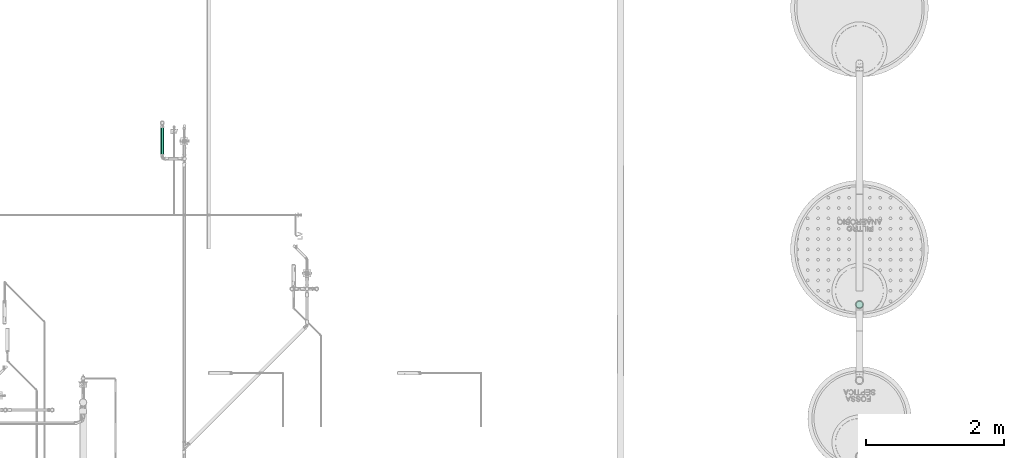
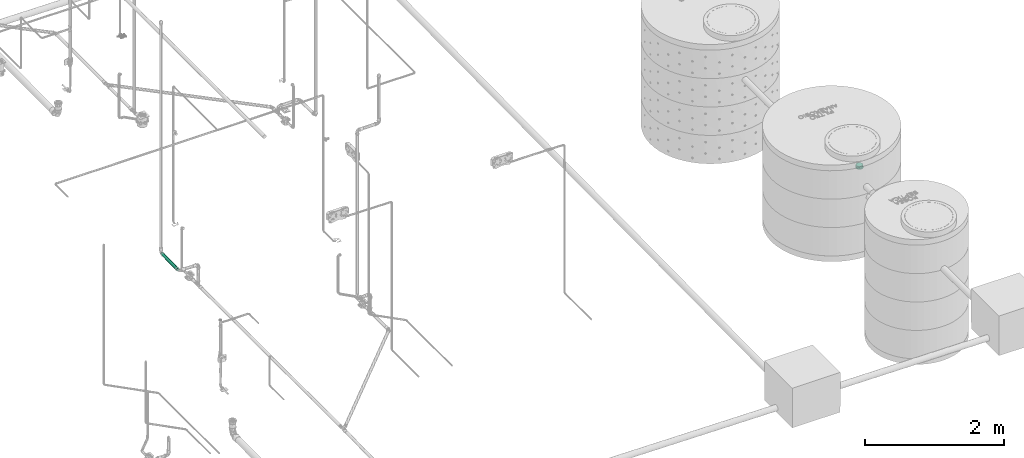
# One storey, part 180 of 589: 1 flow fitting, 1 flow segment.
"""IFC2X3 building model written with IfcOpenShell, lengths in millimetres."""

from ifc_helpers import new_model, entity, si_unit, converted_unit, derived_unit, direction, frame, frame_2d, origin, place, context, subcontext, project, spatial, circle, extrude, faceted_brep, source, transform, mapped, material, type_object, type_shapes, element, save


model = new_model("IFC2X3")

# Units and contexts
model_context = context("Model", 3, precision=0.01, world=origin(), true_north=direction((6.123031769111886e-17, 1.0)))
body_context = subcontext(model_context, "Body", "Model", "MODEL_VIEW")
ifc_project = project(units=[si_unit("LENGTHUNIT", "METRE", prefix="MILLI"), si_unit("AREAUNIT", "SQUARE_METRE"), si_unit("VOLUMEUNIT", "CUBIC_METRE"), converted_unit("PLANEANGLEUNIT", "DEGREE", entity("IfcRatioMeasure", 0.017453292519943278), si_unit("PLANEANGLEUNIT", "RADIAN"), dimensions=[0, 0, 0, 0, 0, 0, 0]), si_unit("MASSUNIT", "GRAM", prefix="KILO"), derived_unit("MASSDENSITYUNIT", [(si_unit("MASSUNIT", "GRAM", prefix="KILO"), 1), (si_unit("LENGTHUNIT", "METRE"), -3)]), derived_unit("IONCONCENTRATIONUNIT", [(si_unit("MASSUNIT", "GRAM", prefix="KILO"), 1), (si_unit("LENGTHUNIT", "METRE"), -3)]), derived_unit("MOMENTOFINERTIAUNIT", [(si_unit("LENGTHUNIT", "METRE"), 4)]), si_unit("TIMEUNIT", "SECOND"), si_unit("FREQUENCYUNIT", "HERTZ"), si_unit("THERMODYNAMICTEMPERATUREUNIT", "DEGREE_CELSIUS"), derived_unit("THERMALTRANSMITTANCEUNIT", [(si_unit("MASSUNIT", "GRAM", prefix="KILO"), 1), (si_unit("THERMODYNAMICTEMPERATUREUNIT", "KELVIN"), -1), (si_unit("TIMEUNIT", "SECOND"), -3)]), derived_unit("THERMALCONDUCTANCEUNIT", [(si_unit("MASSUNIT", "GRAM", prefix="KILO"), 1), (si_unit("THERMODYNAMICTEMPERATUREUNIT", "KELVIN"), -1), (si_unit("TIMEUNIT", "SECOND"), -3), (si_unit("LENGTHUNIT", "METRE"), 1)]), derived_unit("VOLUMETRICFLOWRATEUNIT", [(si_unit("LENGTHUNIT", "METRE"), 3), (si_unit("TIMEUNIT", "SECOND"), -1)]), derived_unit("MASSFLOWRATEUNIT", [(si_unit("MASSUNIT", "GRAM", prefix="KILO"), 1), (si_unit("TIMEUNIT", "SECOND"), -1)]), derived_unit("ROTATIONALFREQUENCYUNIT", [(si_unit("TIMEUNIT", "SECOND"), -1)]), si_unit("ELECTRICCURRENTUNIT", "AMPERE"), si_unit("ELECTRICVOLTAGEUNIT", "VOLT"), si_unit("POWERUNIT", "WATT"), si_unit("FORCEUNIT", "NEWTON", prefix="KILO"), si_unit("ILLUMINANCEUNIT", "LUX"), si_unit("LUMINOUSFLUXUNIT", "LUMEN"), si_unit("LUMINOUSINTENSITYUNIT", "CANDELA"), derived_unit("USERDEFINED", [(si_unit("MASSUNIT", "GRAM", prefix="KILO"), -1), (si_unit("LENGTHUNIT", "METRE"), -2), (si_unit("TIMEUNIT", "SECOND"), 3), (si_unit("LUMINOUSFLUXUNIT", "LUMEN"), 1)]), derived_unit("USERDEFINED", [(si_unit("MASSUNIT", "GRAM", prefix="KILO"), 1), (si_unit("TIMEUNIT", "SECOND"), -3), (si_unit("LENGTHUNIT", "METRE"), 3), (si_unit("ELECTRICCURRENTUNIT", "AMPERE"), -2)]), derived_unit("SOUNDPOWERUNIT", [(si_unit("MASSUNIT", "GRAM", prefix="KILO"), 1), (si_unit("TIMEUNIT", "SECOND"), -3), (si_unit("LENGTHUNIT", "METRE"), 2)]), derived_unit("SOUNDPRESSUREUNIT", [(si_unit("MASSUNIT", "GRAM", prefix="KILO"), 1), (si_unit("LENGTHUNIT", "METRE"), -1), (si_unit("TIMEUNIT", "SECOND"), -2)]), derived_unit("LINEARVELOCITYUNIT", [(si_unit("LENGTHUNIT", "METRE"), 1), (si_unit("TIMEUNIT", "SECOND"), -1)]), si_unit("PRESSUREUNIT", "PASCAL"), derived_unit("USERDEFINED", [(si_unit("MASSUNIT", "GRAM", prefix="KILO"), 1), (si_unit("LENGTHUNIT", "METRE"), -2), (si_unit("TIMEUNIT", "SECOND"), -2)]), derived_unit("LINEARFORCEUNIT", [(si_unit("MASSUNIT", "GRAM", prefix="KILO"), 1), (si_unit("TIMEUNIT", "SECOND"), -2)]), derived_unit("PLANARFORCEUNIT", [(si_unit("MASSUNIT", "GRAM", prefix="KILO"), 1), (si_unit("LENGTHUNIT", "METRE"), -1), (si_unit("TIMEUNIT", "SECOND"), -2)]), derived_unit("SPECIFICHEATCAPACITYUNIT", [(si_unit("THERMODYNAMICTEMPERATUREUNIT", "KELVIN"), -1), (si_unit("LENGTHUNIT", "METRE"), 2), (si_unit("TIMEUNIT", "SECOND"), -2)]), derived_unit("HEATINGVALUEUNIT", [(si_unit("LENGTHUNIT", "METRE"), 2), (si_unit("TIMEUNIT", "SECOND"), -2)]), derived_unit("VAPORPERMEABILITYUNIT", [(si_unit("LENGTHUNIT", "METRE"), -1), (si_unit("TIMEUNIT", "SECOND"), 1)]), derived_unit("DYNAMICVISCOSITYUNIT", [(si_unit("MASSUNIT", "GRAM", prefix="KILO"), 1), (si_unit("TIMEUNIT", "SECOND"), -1), (si_unit("LENGTHUNIT", "METRE"), -1)]), derived_unit("THERMALEXPANSIONCOEFFICIENTUNIT", [(si_unit("THERMODYNAMICTEMPERATUREUNIT", "KELVIN"), -1)]), derived_unit("MODULUSOFELASTICITYUNIT", [(si_unit("MASSUNIT", "GRAM", prefix="KILO"), 1), (si_unit("LENGTHUNIT", "METRE"), -1), (si_unit("TIMEUNIT", "SECOND"), -2)]), derived_unit("ISOTHERMALMOISTURECAPACITYUNIT", [(si_unit("LENGTHUNIT", "METRE"), 3), (si_unit("MASSUNIT", "GRAM", prefix="KILO"), -1)]), derived_unit("MOISTUREDIFFUSIVITYUNIT", [(si_unit("TIMEUNIT", "SECOND"), -1), (si_unit("LENGTHUNIT", "METRE"), 2)])], contexts=[model_context])

# Site, building, storey
site_placement = place(None, origin())
site = spatial("IfcSite", under=ifc_project, at=site_placement, Name="Default", CompositionType="ELEMENT")
building_placement = place(site_placement, origin())
building = spatial("IfcBuilding", under=site, at=building_placement, CompositionType="ELEMENT")
storey_placement = place(building_placement, frame((0.0, 0.0, 100.0)))
storey = spatial("IfcBuildingStorey", under=building, at=storey_placement, Name="TÉRREO", CompositionType="ELEMENT", Elevation=100.0)

# Flow segment
pipe_segment_type = type_object("IfcPipeSegmentType", Name="Tipos de tubos:PVC Esgoto Série Normal", PredefinedType="NOTDEFINED")
flow_segment_placement = place(storey_placement, origin())
element("IfcFlowSegment", 1, at=flow_segment_placement, inside=storey, type_object=pipe_segment_type, Name="Tipos de tubos:PVC Esgoto Série Normal", ObjectType="Tipos de tubos:PVC Esgoto Série Normal", context=body_context, shape_type="SweptSolid", body=[
    extrude(circle(Radius=25.0, at=frame_2d((0.0, -3.925197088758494e-14), x_axis=(1.0, 0.0))), frame((9946.454903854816, -4748.743201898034, 83.51195840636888), z_axis=(0.0, 0.9999500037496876, 0.009999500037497), x_axis=(1.0, 0.0, 0.0)), (0.0, 0.0, 1.0), 457.88729899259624),
])

# Flow fitting
ifc_material = material(Name="PVC Série Normal")
pipe_fitting_type = type_object("IfcPipeFittingType", Name="PVC Esgoto_Cap_Rodrigo MEP:a. Série Normal", PredefinedType="NOTDEFINED", material=ifc_material)
shared_shape = source(origin(), body_context, "Body", "Brep", [
    faceted_brep([(5.21, 25.0, -43.30127018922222), (5.21, 37.65343609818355, -37.65343609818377), (5.21, 26.624999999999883, -46.11585275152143), (5.21, 12.940952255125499, -48.29629131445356), (5.21, 35.355339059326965, -35.3553390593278), (5.21, 46.115852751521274, -26.62500000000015), (5.21, 43.30127018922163, -25.0), (5.21, 48.296291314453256, -12.940952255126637), (5.21, 51.435550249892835, -13.782114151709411), (5.21, 50.0, 0.0), (5.21, 53.25, 0.0), (5.21, 48.29629131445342, 12.94095225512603), (5.21, 51.435550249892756, 13.78211415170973), (5.21, 43.301270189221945, 25.0), (5.21, 46.11585275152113, 26.62500000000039), (5.21, 35.35533905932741, 35.355339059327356), (5.21, 37.65343609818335, 37.65343609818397), (5.21, 25.0, 43.30127018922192), (5.21, 26.624999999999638, 46.11585275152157), (5.21, 12.940952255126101, 48.2962913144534), (5.21, 13.78211415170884, 51.43555024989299), (5.21, 0.0, 50.0), (5.21, 0.0, 53.25), (5.21, -12.940952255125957, 48.29629131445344), (5.21, -13.782114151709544, 51.435550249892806), (5.21, -25.0, 43.30127018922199), (5.21, -26.625000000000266, 46.1158527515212), (5.21, -35.35533905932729, 35.35533905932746), (5.21, -37.653436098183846, 37.65343609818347), (5.21, -43.301270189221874, 25.0), (5.21, -46.11585275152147, 26.6249999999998), (5.21, -51.43555024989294, 13.782114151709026), (5.21, -48.29629131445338, 12.940952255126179), (5.21, -53.25, 0.0), (5.21, -50.0, 0.0), (5.21, -51.435550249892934, -13.782114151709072), (5.21, -48.29629131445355, -12.940952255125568), (5.21, -46.11585275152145, -26.624999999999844), (5.21, -43.3012701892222, -25.0), (5.21, -37.65343609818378, -37.65343609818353), (5.21, -35.35533905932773, -35.35533905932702), (5.21, -26.625000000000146, -46.115852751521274), (5.21, -25.0, -43.301270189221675), (5.21, -13.782114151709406, -51.435550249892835), (5.21, -12.940952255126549, -48.296291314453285), (5.21, 0.0, -53.25), (5.21, 0.0, -50.0), (5.21, 13.78211415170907, -51.435550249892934), (17.53, 28.875000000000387, -50.012967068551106), (17.53, 40.83541661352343, -40.83541661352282), (17.53, 25.0, -43.30127018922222), (17.53, 12.940952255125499, -48.29629131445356), (17.53, 14.946799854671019, -55.782216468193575), (17.53, 35.355339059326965, -35.3553390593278), (17.53, 50.01296706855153, -28.87499999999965), (17.53, 43.30127018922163, -25.0), (17.53, 48.296291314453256, -12.940952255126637), (17.53, 55.782216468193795, -14.946799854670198), (17.53, 50.0, 0.0), (17.53, 57.75, 0.0), (17.53, 48.29629131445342, 12.94095225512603), (17.53, 55.782216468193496, 14.946799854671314), (17.53, 43.301270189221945, 25.0), (17.53, 50.01296706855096, 28.875000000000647), (17.53, 35.35533905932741, 35.355339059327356), (17.53, 40.83541661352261, 40.83541661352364), (17.53, 25.0, 43.30127018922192), (17.53, 28.874999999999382, 50.012967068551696), (17.53, 12.940952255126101, 48.2962913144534), (17.53, 14.946799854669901, 55.78221646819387), (17.53, 0.0, 50.0), (17.53, 0.0, 57.75), (17.53, -12.940952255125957, 48.29629131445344), (17.53, -14.94679985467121, 55.78221646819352), (17.53, -25.0, 43.30127018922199), (17.53, -28.8750000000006, 50.012967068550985), (17.53, -35.35533905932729, 35.35533905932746), (17.53, -40.83541661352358, 40.83541661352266), (17.53, -43.301270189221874, 25.0), (17.53, -50.01296706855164, 28.874999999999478), (17.53, -55.78221646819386, 14.946799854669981), (17.53, -48.29629131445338, 12.940952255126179), (17.53, -57.75, 0.0), (17.53, -50.0, 0.0), (17.53, -55.78221646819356, -14.946799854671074), (17.53, -48.29629131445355, -12.940952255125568), (17.53, -50.012967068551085, -28.875000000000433), (17.53, -43.3012701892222, -25.0), (17.53, -40.83541661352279, -40.83541661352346), (17.53, -35.35533905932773, -35.35533905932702), (17.53, -28.8749999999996, -50.01296706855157), (17.53, -25.0, -43.301270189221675), (17.53, -14.946799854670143, -55.782216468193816), (17.53, -12.940952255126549, -48.296291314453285), (17.53, 0.0, -57.75), (17.53, 0.0, -50.0), (6.5125, 57.75, 0.0), (6.5125, 55.78221646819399, -14.946799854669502), (6.512499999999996, 50.01296706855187, -28.874999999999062), (6.5125, 40.8354166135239, -40.83541661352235), (6.5125, 28.87500000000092, -50.01296706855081), (6.5125, 14.946799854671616, -55.78221646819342), (6.5125, 0.0, -57.75), (6.512500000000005, -14.94679985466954, -55.78221646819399), (6.512500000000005, -28.87499999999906, -50.01296706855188), (6.512500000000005, -40.835416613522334, -40.83541661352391), (6.512500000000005, -50.01296706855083, -28.875000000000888), (6.5125, -55.782216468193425, -14.94679985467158), (6.5125, -57.75, 0.0), (6.512500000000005, -55.78221646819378, 14.946799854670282), (6.512499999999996, -50.01296706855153, 28.87499999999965), (6.512499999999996, -40.83541661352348, 40.835416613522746), (6.5125, -28.87500000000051, 50.012967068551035), (6.512499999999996, -14.94679985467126, 55.7822164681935), (6.5125, 0.0, 57.75), (6.5125, 14.946799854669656, 55.782216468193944), (6.512500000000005, 28.874999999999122, 50.01296706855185), (6.512500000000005, 40.835416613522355, 40.835416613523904), (6.512499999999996, 50.012967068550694, 28.875000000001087), (6.5125, 55.78221646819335, 14.946799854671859)], [[[0, 1, 2]], [[3, 0, 2]], [[4, 1, 0]], [[1, 4, 5]], [[6, 5, 4]], [[7, 5, 6]], [[5, 7, 8]], [[7, 9, 8]], [[10, 8, 9]], [[10, 9, 11]], [[11, 12, 10]], [[13, 12, 11]], [[12, 13, 14]], [[15, 14, 13]], [[16, 14, 15]], [[16, 15, 17]], [[17, 18, 16]], [[19, 18, 17]], [[18, 19, 20]], [[21, 20, 19]], [[22, 20, 21]], [[23, 22, 21]], [[24, 22, 23]], [[25, 24, 23]], [[24, 25, 26]], [[26, 25, 27]], [[28, 26, 27]], [[27, 29, 28]], [[28, 29, 30]], [[31, 30, 29]], [[29, 32, 31]], [[31, 32, 33]], [[32, 34, 33]], [[33, 34, 35]], [[34, 36, 35]], [[37, 35, 36]], [[36, 38, 37]], [[39, 37, 38]], [[40, 39, 38]], [[40, 41, 39]], [[41, 40, 42]], [[43, 41, 42]], [[42, 44, 43]], [[43, 44, 45]], [[44, 46, 45]], [[46, 3, 47]], [[45, 46, 47]], [[2, 47, 3]], [[48, 49, 50]], [[48, 50, 51]], [[51, 52, 48]], [[50, 49, 53]], [[54, 53, 49]], [[55, 53, 54]], [[56, 55, 54]], [[56, 54, 57]], [[56, 57, 58]], [[58, 57, 59]], [[60, 58, 59]], [[60, 59, 61]], [[62, 60, 61]], [[62, 61, 63]], [[64, 62, 63]], [[63, 65, 64]], [[65, 66, 64]], [[65, 67, 66]], [[66, 67, 68]], [[69, 68, 67]], [[68, 69, 70]], [[70, 69, 71]], [[70, 71, 72]], [[72, 71, 73]], [[72, 73, 74]], [[75, 74, 73]], [[75, 76, 74]], [[76, 75, 77]], [[78, 76, 77]], [[79, 78, 77]], [[80, 78, 79]], [[81, 78, 80]], [[81, 80, 82]], [[83, 81, 82]], [[84, 83, 82]], [[84, 85, 83]], [[85, 84, 86]], [[87, 85, 86]], [[87, 86, 88]], [[87, 88, 89]], [[88, 90, 89]], [[89, 90, 91]], [[91, 90, 92]], [[92, 93, 91]], [[94, 93, 92]], [[52, 95, 94]], [[94, 95, 93]], [[52, 51, 95]], [[10, 96, 97, 8]], [[8, 97, 98, 5]], [[2, 1, 99, 100]], [[98, 99, 1, 5]], [[47, 2, 100, 101]], [[102, 45, 47, 101]], [[43, 103, 104, 41]], [[41, 104, 105, 39]], [[35, 37, 106, 107]], [[105, 106, 37, 39]], [[33, 35, 107, 108]], [[43, 45, 102, 103]], [[33, 108, 109, 31]], [[31, 109, 110, 30]], [[26, 28, 111, 112]], [[110, 111, 28, 30]], [[24, 26, 112, 113]], [[114, 22, 24, 113]], [[20, 115, 116, 18]], [[18, 116, 117, 16]], [[12, 14, 118, 119]], [[117, 118, 14, 16]], [[10, 12, 119, 96]], [[20, 22, 114, 115]], [[57, 97, 96, 59]], [[54, 98, 97, 57]], [[99, 49, 48, 100]], [[54, 49, 99, 98]], [[100, 48, 52, 101]], [[101, 52, 94, 102]], [[90, 104, 103, 92]], [[88, 105, 104, 90]], [[106, 86, 84, 107]], [[88, 86, 106, 105]], [[107, 84, 82, 108]], [[103, 102, 94, 92]], [[80, 109, 108, 82]], [[79, 110, 109, 80]], [[111, 77, 75, 112]], [[79, 77, 111, 110]], [[112, 75, 73, 113]], [[113, 73, 71, 114]], [[67, 116, 115, 69]], [[65, 117, 116, 67]], [[118, 63, 61, 119]], [[65, 63, 118, 117]], [[119, 61, 59, 96]], [[115, 114, 71, 69]], [[34, 83, 85, 36]], [[36, 85, 87, 38]], [[42, 40, 89, 91]], [[89, 40, 38, 87]], [[44, 42, 91, 93]], [[44, 93, 95, 46]], [[46, 95, 51, 3]], [[3, 51, 50, 0]], [[6, 4, 53, 55]], [[53, 4, 0, 50]], [[7, 6, 55, 56]], [[7, 56, 58, 9]], [[9, 58, 60, 11]], [[11, 60, 62, 13]], [[17, 15, 64, 66]], [[64, 15, 13, 62]], [[19, 17, 66, 68]], [[19, 68, 70, 21]], [[21, 70, 72, 23]], [[23, 72, 74, 25]], [[29, 27, 76, 78]], [[76, 27, 25, 74]], [[32, 29, 78, 81]], [[32, 81, 83, 34]]]),
    faceted_brep([(53.24999999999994, 0.0, 0.0), (53.24999999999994, -45.048443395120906, -21.69418695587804), (53.24999999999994, -38.111466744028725, -30.39288053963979), (53.24999999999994, -31.17449009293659, -39.09157412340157), (53.24999999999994, -21.1502683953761, -43.91898486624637), (53.24999999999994, -11.126046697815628, -48.746395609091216), (53.24999999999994, 0.0, -48.746395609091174), (53.24999999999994, -47.524221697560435, -10.847093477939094), (53.24999999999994, -50.0, 0.0), (53.24999999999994, 11.126046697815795, -48.746395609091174), (53.24999999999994, 21.150268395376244, -43.9189848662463), (53.24999999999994, 31.174490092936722, -39.09157412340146), (53.24999999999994, 38.11146674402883, -30.392880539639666), (53.24999999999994, 45.04844339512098, -21.694186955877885), (53.24999999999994, 47.52422169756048, -10.847093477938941), (53.24999999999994, 50.0, 0.0), (53.24999999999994, 47.52422169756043, 10.847093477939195), (53.24999999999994, -47.5242216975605, 10.84709347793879), (53.24999999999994, -45.04844339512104, 21.694186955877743), (53.24999999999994, -38.111466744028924, 30.392880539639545), (53.24999999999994, -31.174490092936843, 39.091574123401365), (53.24999999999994, -21.150268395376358, 43.91898486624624), (53.24999999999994, -11.126046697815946, 48.74639560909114), (53.24999999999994, 45.04844339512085, 21.694186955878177), (53.24999999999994, 38.1114667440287, 30.392880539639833), (53.24999999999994, 31.174490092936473, 39.09157412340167), (53.24999999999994, 21.150268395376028, 43.9189848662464), (53.24999999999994, 11.126046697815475, 48.746395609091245), (53.24999999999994, 0.0, 48.74639560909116), (50.0, -50.0, 0.0), (50.0, 0.0, 0.0), (50.0, -48.2962913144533, -12.940952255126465), (50.0, -48.29629131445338, 12.940952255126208), (50.0, -43.30127018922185, 25.0), (50.0, -35.35533905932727, 35.355339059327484), (50.0, -25.0, 43.301270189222), (50.0, -12.94095225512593, 48.29629131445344), (50.0, 0.0, 50.0), (50.0, 12.940952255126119, 48.29629131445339), (50.0, 25.0, 43.301270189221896), (50.0, 35.35533905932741, 35.35533905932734), (50.0, 43.30127018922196, 25.0), (50.0, 48.29629131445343, 12.94095225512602), (50.0, 50.0, 0.0), (50.0, 48.29629131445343, -12.940952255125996), (50.0, 43.301270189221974, -25.0), (50.0, 35.35533905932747, -35.355339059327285), (50.0, 25.0, -43.30127018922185), (50.0, 12.94095225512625, -48.296291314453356), (50.0, 0.0, -50.0), (50.0, -12.940952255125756, -48.2962913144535), (50.0, -25.0, -43.301270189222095), (50.0, -35.355339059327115, -35.35533905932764), (50.0, -43.30127018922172, -25.0), (53.00458680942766, 48.81487662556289, -15.573573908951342), (52.63393157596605, 51.09920137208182, -9.10430348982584), (52.858005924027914, 44.586781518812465, -25.867905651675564), (51.62732470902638, 42.169557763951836, -31.795701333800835), (52.29182462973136, 48.73853311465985, -18.981587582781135), (52.855548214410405, 29.183345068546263, -42.49622488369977), (52.883936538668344, 38.04021623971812, -34.713603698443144), (50.0, 46.11585275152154, -26.62499999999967), (51.76459863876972, 6.955689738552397, -52.26844157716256), (52.85724259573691, -5.592315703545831, -51.244520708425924), (51.6273247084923, -6.956672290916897, -52.35306042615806), (51.54479934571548, 51.820871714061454, -10.426507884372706), (50.0, 0.0, -53.24999999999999), (50.0, 13.782114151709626, -51.43555024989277), (50.0, 37.653436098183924, -37.65343609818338), (50.0, 53.24999999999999, 0.0), (50.819679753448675, 52.9104775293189, 0.0), (52.298097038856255, 52.29809703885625, 0.0), (50.0, 51.43555024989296, -13.782114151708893), (51.76459863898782, 32.391409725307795, -41.60730922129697), (51.115246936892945, 20.39612755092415, -48.975326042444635), (50.0, 26.625000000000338, -46.11585275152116), (52.35926530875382, 20.354846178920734, -48.106155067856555), (51.6273247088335, -42.169557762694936, -31.79570133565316), (50.0, -37.653436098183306, -37.65343609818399), (51.7645986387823, -32.39140972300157, -41.60730922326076), (52.3592653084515, -20.354846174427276, -48.106155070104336), (52.85554821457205, -29.183345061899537, -42.49622488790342), (50.0, -13.782114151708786, -51.435550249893), (52.835996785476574, 10.495005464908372, -50.508490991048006), (50.0, -26.6249999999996, -46.11585275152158), (51.115246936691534, -20.396127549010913, -48.97532604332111), (52.298097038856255, -52.29809703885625, 0.0), (52.38411664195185, -51.331745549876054, -9.529080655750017), (52.58172941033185, -51.613347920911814, 0.0), (52.88393653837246, -38.0402162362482, -34.7136037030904), (52.94430490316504, -45.8256647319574, -23.22733347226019), (50.819679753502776, -52.91047752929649, 0.0), (50.0, -46.1158527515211, -26.625000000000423), (52.29182462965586, -48.738533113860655, -18.98158758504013), (51.3494443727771, -50.935684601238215, -14.489920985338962), (52.97645390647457, -49.43475697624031, -13.726455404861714), (52.5817294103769, 51.613347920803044, 0.0), (50.0, -51.43555024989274, -13.782114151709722), (50.0, -53.24999999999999, 0.0), (53.00458680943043, -48.81487662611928, 15.573573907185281), (52.633931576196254, -51.099201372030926, 9.104303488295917), (52.85800592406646, -44.5867815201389, 25.867905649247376), (51.62732470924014, -42.16955776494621, 31.79570133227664), (52.29182462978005, -48.73853311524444, 18.981587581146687), (52.855548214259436, -29.183345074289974, 42.49622488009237), (52.88393653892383, -38.04021624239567, 34.713603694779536), (50.0, -46.115852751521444, 26.62499999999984), (51.764598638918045, -6.955689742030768, 52.268441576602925), (52.85724259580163, 5.592315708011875, 51.24452070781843), (51.62732470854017, 6.956672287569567, 52.353060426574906), (51.54479934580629, -51.82087171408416, 10.426507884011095), (50.0, 0.0, 53.24999999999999), (50.0, -13.782114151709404, 51.43555024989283), (50.0, -37.65343609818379, 37.65343609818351), (50.0, -51.43555024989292, 13.78211415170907), (52.35926530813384, 20.35484616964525, 48.10615507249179), (51.62732470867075, 42.1695577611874, 31.795701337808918), (50.0, 37.653436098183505, 37.65343609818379), (51.76459863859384, 32.39140972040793, 41.607309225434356), (52.35926530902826, -20.354846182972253, 48.10615506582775), (51.11524693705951, -20.396127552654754, 48.97532604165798), (51.76459863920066, -32.39140972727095, 41.60730921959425), (50.0, -26.625000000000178, 46.115852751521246), (52.83599678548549, -10.495005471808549, 50.50849098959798), (50.0, 26.624999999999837, 46.115852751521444), (50.0, 13.782114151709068, 51.43555024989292), (51.115246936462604, 20.39612754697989, 48.97532604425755), (52.38411664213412, 51.33174554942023, 9.529080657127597), (52.88393653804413, 38.0402162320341, 34.71360370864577), (52.94430490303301, 45.825664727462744, 23.227333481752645), (52.97645390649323, 49.43475697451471, 13.72645541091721), (50.0, 46.11585275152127, 26.625000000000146), (52.29182462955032, 48.73853311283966, 18.981587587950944), (51.34944437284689, 50.93568460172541, 14.489920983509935), (52.855548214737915, 29.183345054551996, 42.496224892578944), (50.0, 51.43555024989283, 13.782114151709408), (0.0, -26.625000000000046, -46.11585275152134), (0.0, -37.65343609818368, -37.65343609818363), (0.0, -25.0, -43.30127018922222), (0.0, -12.940952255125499, -48.29629131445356), (0.0, -13.7821141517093, -51.43555024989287), (0.0, -35.355339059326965, -35.3553390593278), (0.0, -46.11585275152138, -26.62499999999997), (0.0, -43.30127018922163, -25.0), (0.0, -48.296291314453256, -12.940952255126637), (0.0, -51.43555024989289, -13.78211415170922), (0.0, -50.0, 0.0), (0.0, -53.25, 0.0), (0.0, -48.29629131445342, 12.94095225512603), (0.0, -51.43555024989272, 13.782114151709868), (0.0, -43.301270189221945, 25.0), (0.0, -46.11585275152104, 26.625000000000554), (0.0, -35.3553390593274, 35.355339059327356), (0.0, -37.653436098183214, 37.6534360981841), (0.0, -25.0, 43.30127018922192), (0.0, -26.62499999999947, 46.115852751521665), (0.0, -12.940952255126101, 48.2962913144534), (0.0, -13.782114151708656, 51.43555024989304), (0.0, 0.0, 50.0), (0.0, 0.0, 53.25), (0.0, 12.940952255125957, 48.29629131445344), (0.0, 13.782114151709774, 51.435550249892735), (0.0, 25.0, 43.30127018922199), (0.0, 26.625000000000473, 46.11585275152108), (0.0, 35.35533905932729, 35.35533905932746), (0.0, 37.65343609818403, 37.65343609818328), (0.0, 43.301270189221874, 25.0), (0.0, 46.11585275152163, 26.624999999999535), (0.0, 51.43555024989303, 13.782114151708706), (0.0, 48.29629131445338, 12.940952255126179), (0.0, 53.25, 0.0), (0.0, 50.0, 0.0), (0.0, 51.43555024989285, -13.782114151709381), (0.0, 48.29629131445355, -12.940952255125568), (0.0, 46.115852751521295, -26.625000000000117), (0.0, 43.3012701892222, -25.0), (0.0, 37.65343609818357, -37.65343609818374), (0.0, 35.35533905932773, -35.35533905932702), (0.0, 26.624999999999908, -46.11585275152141), (0.0, 25.0, -43.301270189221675), (0.0, 13.782114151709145, -51.43555024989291), (0.0, 12.940952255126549, -48.296291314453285), (0.0, 0.0, -53.25), (0.0, 0.0, -50.0), (5.210000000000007, 53.25, 0.0), (5.209999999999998, -53.25, 0.0)], [[[0, 1, 2]], [[0, 2, 3]], [[0, 3, 4]], [[0, 4, 5]], [[0, 5, 6]], [[0, 7, 1]], [[0, 8, 7]], [[0, 6, 9]], [[0, 9, 10]], [[0, 10, 11]], [[0, 11, 12]], [[0, 12, 13]], [[0, 13, 14]], [[0, 14, 15]], [[0, 15, 16]], [[0, 17, 8]], [[0, 18, 17]], [[0, 19, 18]], [[0, 20, 19]], [[0, 21, 20]], [[0, 22, 21]], [[0, 16, 23]], [[0, 23, 24]], [[0, 24, 25]], [[0, 25, 26]], [[0, 26, 27]], [[0, 27, 28]], [[0, 28, 22]], [[29, 30, 31]], [[29, 32, 30]], [[32, 33, 30]], [[33, 34, 30]], [[35, 30, 34]], [[30, 35, 36]], [[36, 37, 30]], [[38, 30, 37]], [[30, 38, 39]], [[30, 39, 40]], [[41, 30, 40]], [[30, 41, 42]], [[42, 43, 30]], [[30, 43, 44]], [[30, 44, 45]], [[46, 30, 45]], [[47, 30, 46]], [[48, 30, 47]], [[30, 48, 49]], [[30, 49, 50]], [[30, 50, 51]], [[52, 30, 51]], [[53, 30, 52]], [[31, 30, 53]], [[14, 54, 55]], [[56, 57, 58]], [[59, 60, 11]], [[61, 58, 57]], [[62, 63, 64]], [[55, 58, 65]], [[54, 56, 58]], [[66, 67, 62]], [[68, 61, 57]], [[65, 69, 70, 71]], [[61, 72, 58]], [[73, 74, 75]], [[65, 58, 72]], [[76, 74, 73]], [[75, 74, 67]], [[77, 78, 79]], [[68, 57, 73]], [[80, 4, 81]], [[74, 62, 67]], [[56, 12, 60]], [[82, 66, 64]], [[83, 63, 62]], [[83, 62, 76]], [[84, 82, 85]], [[86, 87, 88]], [[6, 63, 83]], [[89, 77, 79]], [[90, 77, 89]], [[85, 64, 80]], [[87, 86, 91]], [[84, 79, 78]], [[64, 66, 62]], [[79, 84, 85]], [[73, 57, 60]], [[80, 64, 63]], [[92, 93, 94]], [[87, 94, 93]], [[88, 87, 95]], [[77, 92, 78]], [[59, 10, 76]], [[3, 89, 81]], [[73, 75, 68]], [[5, 63, 6]], [[73, 60, 59]], [[81, 79, 80]], [[93, 92, 77]], [[90, 2, 1]], [[90, 1, 95]], [[9, 83, 10]], [[73, 59, 76]], [[59, 11, 10]], [[79, 81, 89]], [[63, 5, 80]], [[4, 80, 5]], [[4, 3, 81]], [[62, 74, 76]], [[64, 85, 82]], [[79, 85, 80]], [[69, 65, 72]], [[55, 65, 71]], [[55, 71, 96, 15]], [[55, 15, 14]], [[55, 54, 58]], [[14, 13, 54]], [[89, 3, 2]], [[13, 56, 54]], [[57, 56, 60]], [[1, 7, 8, 95]], [[91, 97, 94]], [[8, 88, 95]], [[95, 87, 93]], [[91, 94, 87]], [[98, 97, 91]], [[92, 94, 97]], [[95, 93, 90]], [[77, 90, 93]], [[90, 89, 2]], [[10, 83, 76]], [[83, 9, 6]], [[12, 56, 13]], [[12, 11, 60]], [[17, 99, 100]], [[101, 102, 103]], [[104, 105, 20]], [[106, 103, 102]], [[107, 108, 109]], [[100, 103, 110]], [[99, 101, 103]], [[111, 112, 107]], [[113, 106, 102]], [[110, 98, 91, 86]], [[106, 114, 103]], [[115, 109, 108]], [[116, 117, 118]], [[119, 120, 121]], [[122, 120, 112]], [[121, 120, 122]], [[113, 102, 121]], [[110, 103, 114]], [[120, 107, 112]], [[101, 19, 105]], [[111, 107, 109]], [[123, 107, 119]], [[124, 125, 126]], [[109, 125, 111]], [[71, 127, 96]], [[28, 108, 123]], [[128, 116, 118]], [[128, 129, 116]], [[126, 109, 115]], [[71, 70, 127]], [[104, 21, 119]], [[121, 122, 113]], [[118, 124, 126]], [[124, 118, 117]], [[96, 127, 130]], [[131, 132, 133]], [[127, 133, 132]], [[121, 102, 105]], [[116, 131, 117]], [[115, 26, 134]], [[25, 128, 134]], [[123, 108, 107]], [[27, 108, 28]], [[121, 105, 104]], [[134, 118, 115]], [[132, 131, 116]], [[129, 24, 23]], [[129, 23, 130]], [[22, 123, 21]], [[121, 104, 119]], [[104, 20, 21]], [[118, 134, 128]], [[108, 27, 115]], [[26, 115, 27]], [[26, 25, 134]], [[107, 120, 119]], [[109, 126, 125]], [[118, 126, 115]], [[98, 110, 114]], [[100, 110, 86]], [[100, 86, 88, 8]], [[100, 8, 17]], [[100, 99, 103]], [[17, 18, 99]], [[128, 25, 24]], [[18, 101, 99]], [[102, 101, 105]], [[23, 16, 15, 130]], [[70, 135, 133]], [[15, 96, 130]], [[130, 127, 132]], [[70, 133, 127]], [[69, 135, 70]], [[131, 133, 135]], [[130, 132, 129]], [[116, 129, 132]], [[129, 128, 24]], [[21, 123, 119]], [[123, 22, 28]], [[19, 101, 18]], [[19, 20, 105]], [[136, 137, 138]], [[136, 138, 139]], [[139, 140, 136]], [[138, 137, 141]], [[142, 141, 137]], [[141, 142, 143]], [[143, 142, 144]], [[145, 144, 142]], [[145, 146, 144]], [[146, 145, 147]], [[148, 146, 147]], [[147, 149, 148]], [[148, 149, 150]], [[151, 150, 149]], [[150, 151, 152]], [[152, 151, 153]], [[154, 152, 153]], [[153, 155, 154]], [[154, 155, 156]], [[157, 156, 155]], [[156, 157, 158]], [[158, 157, 159]], [[158, 159, 160]], [[160, 159, 161]], [[160, 161, 162]], [[163, 162, 161]], [[164, 162, 163]], [[164, 163, 165]], [[165, 166, 164]], [[167, 166, 165]], [[166, 167, 168]], [[168, 169, 166]], [[170, 169, 168]], [[170, 171, 169]], [[172, 171, 170]], [[172, 173, 171]], [[173, 172, 174]], [[174, 175, 173]], [[175, 174, 176]], [[175, 176, 177]], [[176, 178, 177]], [[179, 177, 178]], [[179, 178, 180]], [[180, 181, 179]], [[182, 181, 180]], [[140, 183, 182]], [[182, 183, 181]], [[140, 139, 183]], [[170, 168, 135, 69, 184]], [[131, 167, 165, 117]], [[124, 117, 165, 163]], [[168, 167, 131, 135]], [[124, 163, 161, 125]], [[161, 159, 111, 125]], [[112, 111, 159, 157]], [[155, 122, 112, 157]], [[151, 149, 114, 106]], [[106, 113, 153, 151]], [[113, 122, 155, 153]], [[185, 98, 114, 149, 147]], [[147, 145, 97, 98, 185]], [[142, 137, 78, 92]], [[137, 136, 84, 78]], [[145, 142, 92, 97]], [[84, 136, 140, 82]], [[182, 66, 82, 140]], [[67, 66, 182, 180]], [[178, 75, 67, 180]], [[174, 172, 72, 61]], [[61, 68, 176, 174]], [[68, 75, 178, 176]], [[184, 69, 72, 172, 170]], [[43, 171, 173, 44]], [[44, 173, 175, 45]], [[49, 48, 181, 183]], [[45, 175, 177, 46]], [[177, 179, 47, 46]], [[179, 181, 48, 47]], [[51, 50, 139, 138]], [[51, 138, 141, 52]], [[31, 53, 143, 144]], [[141, 143, 53, 52]], [[29, 31, 144, 146]], [[183, 139, 50, 49]], [[29, 146, 148, 32]], [[32, 148, 150, 33]], [[152, 34, 33, 150]], [[154, 35, 34, 152]], [[36, 156, 158, 37]], [[35, 154, 156, 36]], [[39, 38, 160, 162]], [[39, 162, 164, 40]], [[42, 41, 166, 169]], [[164, 166, 41, 40]], [[43, 42, 169, 171]], [[158, 160, 38, 37]]]),
])
type_shapes(pipe_fitting_type, [shared_shape])
flow_fitting_placement = place(storey_placement, frame((20055.667196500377, -6894.002126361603, -357.5500000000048), z_axis=(1.0, 0.0, 0.0), x_axis=(0.0, 0.0, 1.0)))
element("IfcFlowFitting", 2, at=flow_fitting_placement, inside=storey, type_object=pipe_fitting_type, material=ifc_material, Name="PVC Esgoto_Cap_Rodrigo MEP:a. Série Normal", ObjectType="PVC Esgoto_Cap_Rodrigo MEP:a. Série Normal", context=body_context, shape_type="MappedRepresentation", body=[
    mapped(shared_shape, transform((0.0, 0.0, 0.0), scale=1.0)),
])

save(model, "model.ifc")
